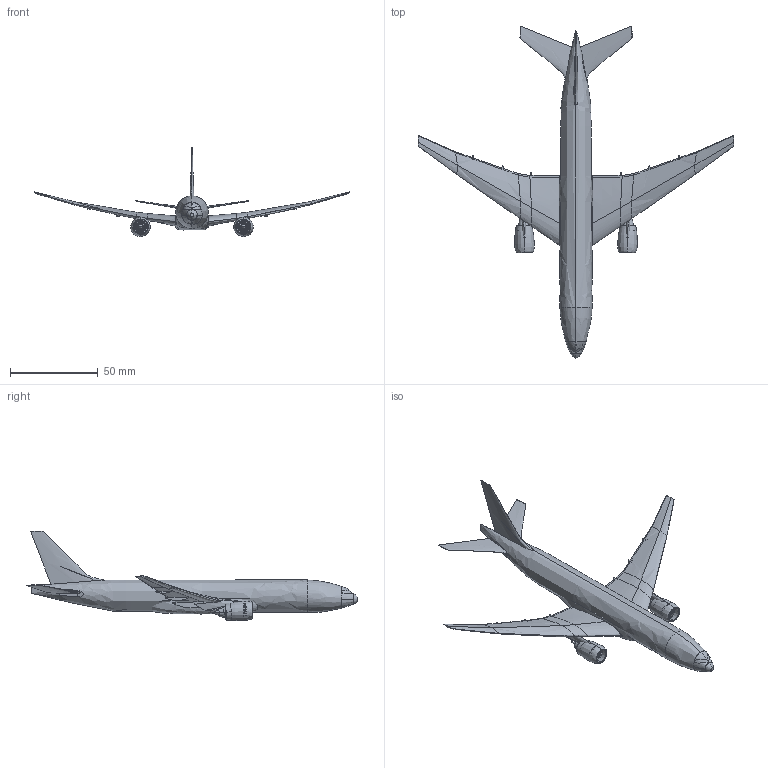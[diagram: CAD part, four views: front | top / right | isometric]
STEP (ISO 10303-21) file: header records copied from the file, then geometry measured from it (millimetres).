
FILE_DESCRIPTION(/* description */ (''),/* implementation_level */ '2;1');
FILE_NAME(/* name */ 'boing777 for asghar.stp',/* time_stamp */ '2011-09-01T13:07:55+02:00',/* author */ (''),/* organization */ (''),/* preprocessor_version */ 'ST-DEVELOPER v11',/* originating_system */ 'SIEMENS UGS NX 6.0',/* authorisation */ '');
FILE_SCHEMA (('AUTOMOTIVE_DESIGN { 1 0 10303 214 1 1 1 1 }'));
Products named in the file (1): boing777
Bounding box: 179.55 x 188.82 x 50.77 mm (x, y, z)
Volume: 57391.3 mm3; surface area: 27071.7 mm2
Topology: 20 solids, 20 shells, 639 faces, 1698 edges, 1109 vertices
Faces by surface type: plane 337, bspline 199, cone 86, cylinder 9, torus 8
Entity records: 51238 total; most frequent: CARTESIAN_POINT 33589, ORIENTED_EDGE 3388, DIRECTION 1706, EDGE_CURVE 1694, VERTEX_POINT 1109, B_SPLINE_CURVE_WITH_KNOTS 826, PRESENTATION_STYLE_ASSIGNMENT 659, SURFACE_STYLE_USAGE 659
